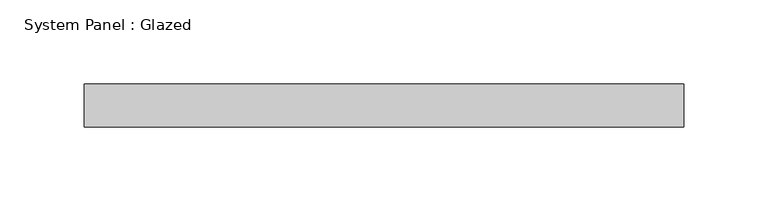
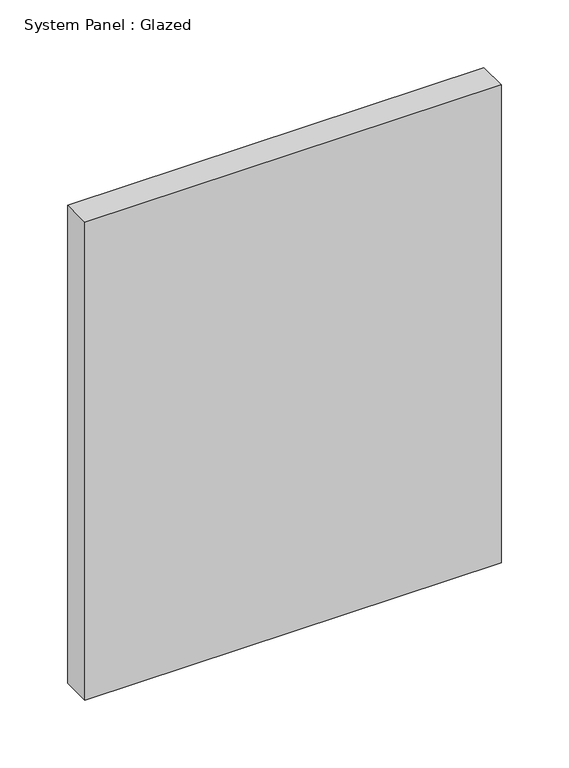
"""IFC4 building model written with IfcOpenShell, lengths in millimetres: plate geometry, System Panel : Glazed."""

from ifc_helpers import new_model, si_unit, origin, origin_with_axes, place, context, project, spatial, polyline, outline, extrude, source, transform, mapped, element, save


def system_panel_glazed_e9537edc(model_context):
    return source(origin(), model_context, "Body", "SweptSolid", [
        extrude(outline(polyline([(177.8636406, 19.05), (-177.8636406, 19.05), (-177.8636406, 44.45), (177.8636406, 44.45), (177.8636406, 19.05)])), origin_with_axes(), (0.0, 0.0, 1.0), 431.8),
    ])


if __name__ == "__main__":
    model = new_model("IFC4")
    model_context = context("Model", 3, world=origin())
    ifc_project = project(units=[si_unit("LENGTHUNIT", "METRE", prefix="MILLI")], contexts=[model_context])
    site = spatial("IfcSite", under=ifc_project)
    building = spatial("IfcBuilding", under=site)
    placement = place(None, origin())
    system_panel_glazed_shape = system_panel_glazed_e9537edc(model_context)
    element("IfcPlate", 1, ObjectType="System Panel : Glazed", at=placement, inside=building, context=model_context, shape_type="MappedRepresentation", body=[
        mapped(system_panel_glazed_shape, transform((0.0, 0.0, 0.0), x_axis=(1.0, 0.0, 0.0), y_axis=(0.0, 1.0, 0.0), z_axis=(0.0, 0.0, 1.0))),
    ])
    save(model, "model.ifc")
